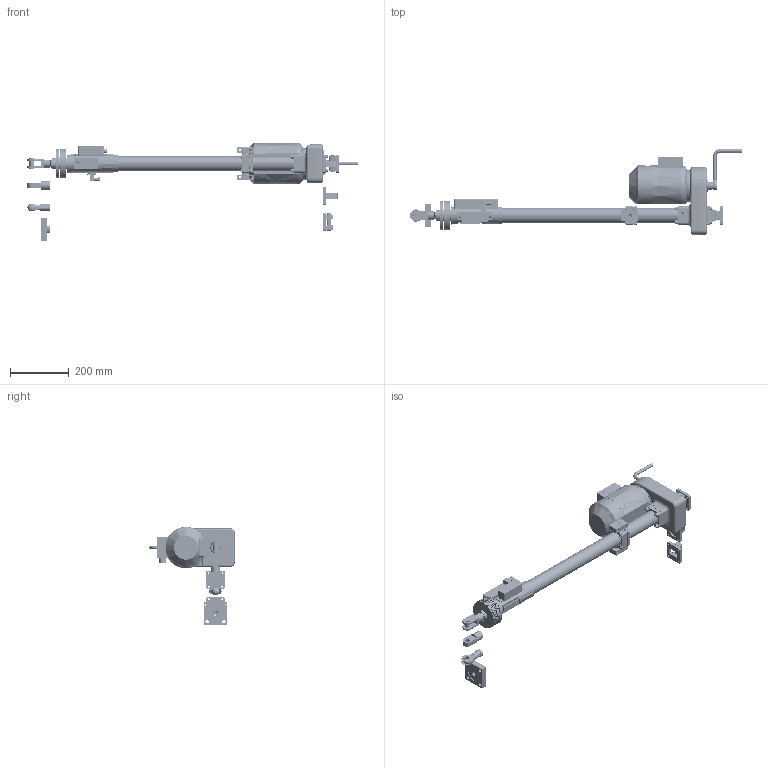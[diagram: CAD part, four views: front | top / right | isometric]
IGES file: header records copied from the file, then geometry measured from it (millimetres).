
Start section: SolidWorks IGES file using analytic representation for surfaces
Global section: file name: E:\Ïðîåêòíàÿ äîêóìåíòàöèÿ\ïðîåêòû\â ðàçðàáîòêå\êóçíåöîâ\ÌÝÏ-Ñ1\Ðåêëàìà\Ñ1-600.IGS; native system: SolidWorks 2012; preprocessor: SolidWorks 2012; author: Êóçíåöîâ; date: 131211.140810; units: millimetre
Bounding box: 1135.12 x 293.4 x 336 mm (x, y, z)
Surface area: 953095.4 mm2 (no closed solid volume)
Topology: 0 solids, 0 shells, 2154 faces, 48499 edges, 48487 vertices
Faces by surface type: revolution 1173, bspline 981
